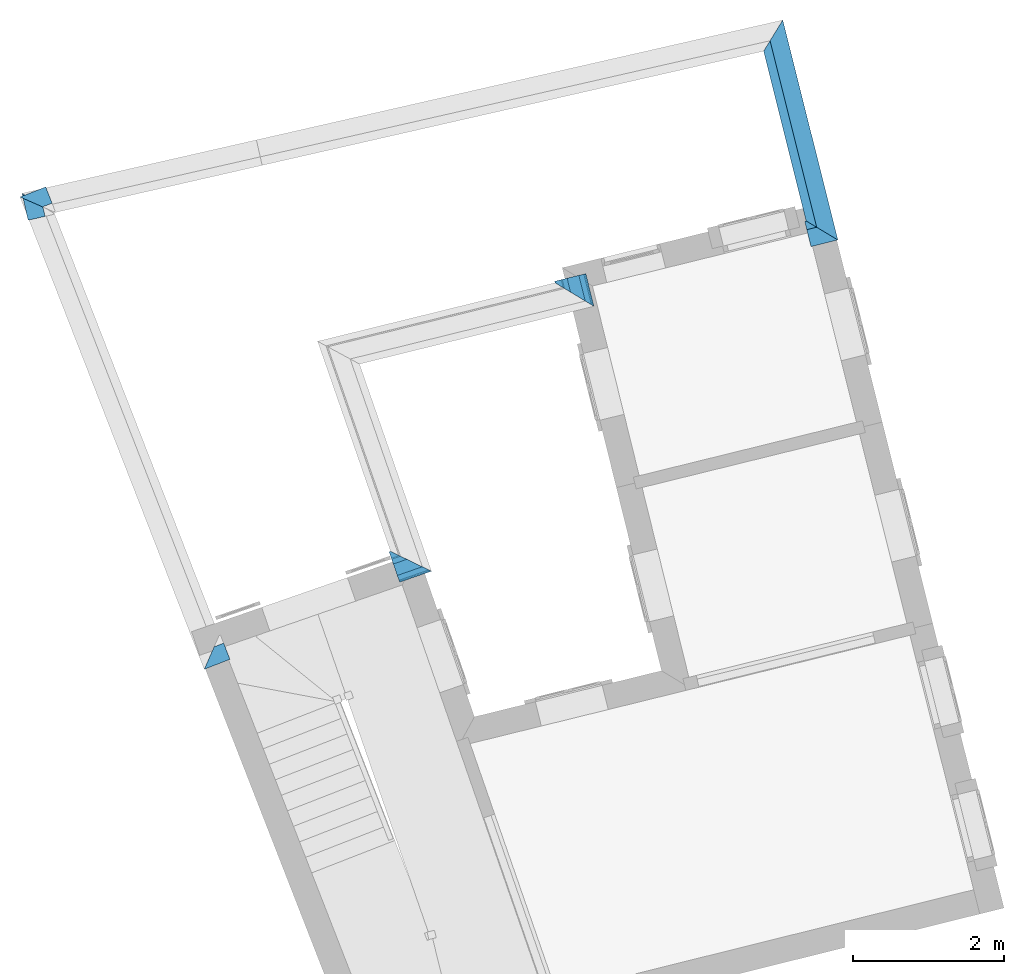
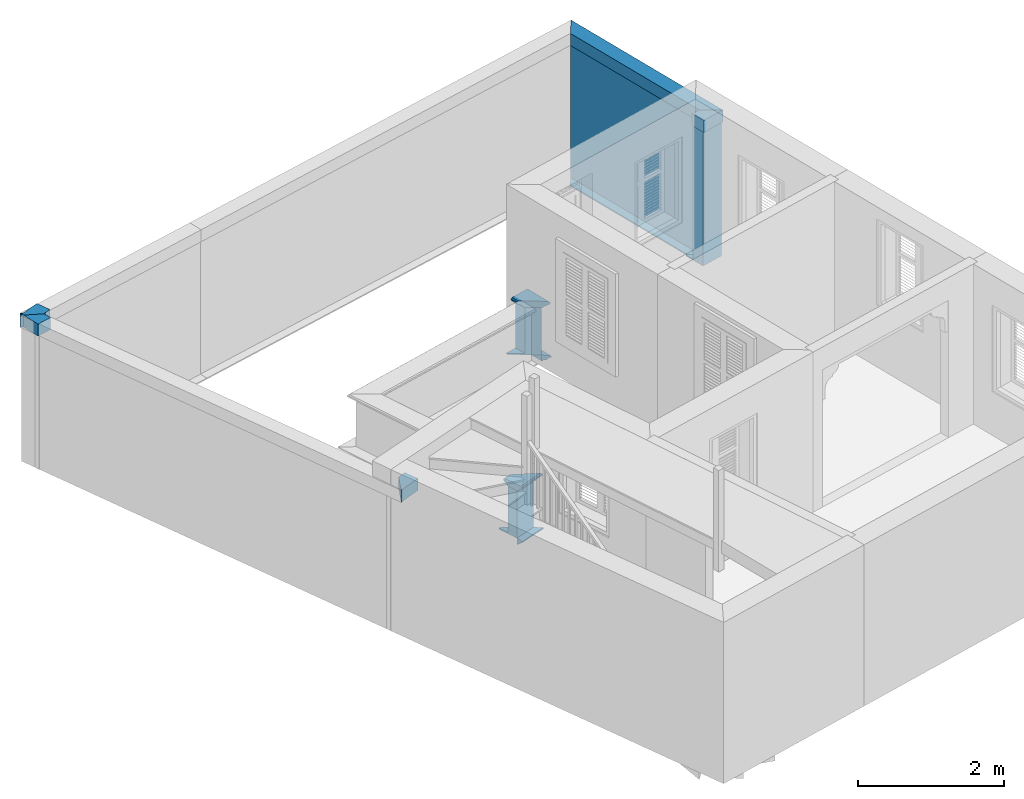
# One storey, part 8 of 8: 13 walls.
"""IFC4 building model written with IfcOpenShell, lengths in metres."""

from ifc_helpers import new_model, si_unit, frame, origin_with_axes, place, context, subcontext, project, spatial, polyline, outline, extrude, clip, halfspace, material_profile, profile_set, profile_usage, type_object, element, save


model = new_model("IFC4")

# Units and contexts
model_context = context("Model", 3, world=origin_with_axes())
body_context = subcontext(model_context, "Body", "Model", "MODEL_VIEW")
ifc_project = project(units=[si_unit("PLANEANGLEUNIT", "RADIAN"), si_unit("MASSUNIT", "GRAM", prefix="KILO"), si_unit("FORCEUNIT", "NEWTON", prefix="KILO"), si_unit("LENGTHUNIT", "METRE"), si_unit("AREAUNIT", "SQUARE_METRE"), si_unit("VOLUMEUNIT", "CUBIC_METRE")], contexts=[model_context, model_context])

# Site, building, storey
site_placement = place(None, origin_with_axes())
site = spatial("IfcSite", under=ifc_project, at=site_placement, Name="Site plot-1", CompositionType="ELEMENT")
building_placement = place(None, origin_with_axes())
building = spatial("IfcBuilding", under=site, at=building_placement, Name="Building plot-1", CompositionType="ELEMENT")
storey_placement = place(None, frame((0.0, 0.0, 2.7), z_axis=(0.0, 0.0, 1.0), x_axis=(1.0, 0.0, 0.0)))
storey = spatial("IfcBuildingStorey", under=building, at=storey_placement, Name="plot-1 1", CompositionType="ELEMENT", Elevation=2.7)

# Walls
ifc_material_profile_1 = material_profile(None, outline(polyline([(0.25, 0.0), (0.25, 2.245), (0.05, 2.245), (0.05, 0.02), (-0.08, 0.02), (-0.08, 0.0), (0.25, 0.0)])))
ifc_profile_set_1 = profile_set([ifc_material_profile_1])
ifc_profile_usage_1 = profile_usage(ifc_profile_set_1)
wall_type_1 = type_object("IfcWallType", Name="parapet street_0", PredefinedType="PARAPET", material=ifc_profile_set_1)
wall_1_placement = place(storey_placement, frame((5.82904851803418, 24.8814401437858, 0.0), z_axis=(-0.970033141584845, -0.242972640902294, 0.0), x_axis=(0.242972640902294, -0.970033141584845, 0.0)))
element("IfcWall", 1, at=wall_1_placement, inside=storey, type_object=wall_type_1, material=ifc_profile_usage_1, Name="parapet street_0", context=body_context, shape_type="Clipping", body=[
    clip(clip(extrude(outline(polyline([(0.25, 0.0), (0.25, 2.245), (0.05, 2.245), (0.05, 0.02), (-0.08, 0.02), (-0.08, 0.0), (0.25, 0.0)])), origin_with_axes(), (0.0, 0.0, 1.0), 2.1), halfspace(frame((0.0, 0.0, 1.1), z_axis=(-6.12323399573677e-17, 0.0, -1.0), x_axis=(0.0, 1.0, 0.0)), True)), halfspace(frame((0.0, 0.0, 1.0), z_axis=(-0.707106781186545, 0.0, -0.70710678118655), x_axis=(0.0, 1.0, 0.0)), False)),
])
ifc_profile_usage_2 = profile_usage(ifc_profile_set_1)
wall_2_placement = place(storey_placement, frame((4.01587312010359, 28.0045910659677, 0.0), z_axis=(0.242972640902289, -0.970033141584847, 0.0), x_axis=(0.970033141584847, 0.242972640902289, 0.0)))
element("IfcWall", 2, at=wall_2_placement, inside=storey, type_object=wall_type_1, material=ifc_profile_usage_2, Name="parapet street_0", context=body_context, shape_type="Clipping", body=[
    clip(clip(extrude(outline(polyline([(0.25, 0.0), (0.25, 2.245), (0.05, 2.245), (0.05, 0.02), (-0.08, 0.02), (-0.08, 0.0), (0.25, 0.0)])), origin_with_axes(), (0.0, 0.0, 1.0), 4.47011191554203), halfspace(frame((0.0, 0.0, 3.47011191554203), z_axis=(0.707106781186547, 0.0, -0.707106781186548), x_axis=(0.0, 1.0, 0.0)), True)), halfspace(frame((0.0, 0.0, 1.0), z_axis=(-0.699473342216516, 0.0, -0.714658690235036), x_axis=(0.0, 1.0, 0.0)), False)),
])
ifc_material_profile_2 = material_profile(None, outline(polyline([(0.265, 2.245), (0.265, 2.445), (0.035, 2.445), (0.035, 2.245), (0.265, 2.245)])))
ifc_profile_set_2 = profile_set([ifc_material_profile_2])
ifc_profile_usage_3 = profile_usage(ifc_profile_set_2)
wall_type_2 = type_object("IfcWallType", Name="parapet street_1", PredefinedType="PARAPET", material=ifc_profile_set_2)
wall_3_placement = place(storey_placement, frame((5.82904851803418, 24.8814401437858, 0.0), z_axis=(-0.970033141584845, -0.242972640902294, 0.0), x_axis=(0.242972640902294, -0.970033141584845, 0.0)))
element("IfcWall", 3, at=wall_3_placement, inside=storey, type_object=wall_type_2, material=ifc_profile_usage_3, Name="parapet street_1", context=body_context, shape_type="Clipping", body=[
    clip(clip(extrude(outline(polyline([(0.265, 2.245), (0.265, 2.445), (0.035, 2.445), (0.035, 2.245), (0.265, 2.245)])), origin_with_axes(), (0.0, 0.0, 1.0), 2.1), halfspace(frame((0.0, 0.0, 1.1), z_axis=(-6.12323399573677e-17, 0.0, -1.0), x_axis=(0.0, 1.0, 0.0)), True)), halfspace(frame((0.0, 0.0, 1.0), z_axis=(-0.707106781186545, 0.0, -0.70710678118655), x_axis=(0.0, 1.0, 0.0)), False)),
])
ifc_profile_usage_4 = profile_usage(ifc_profile_set_2)
wall_4_placement = place(storey_placement, frame((4.01587312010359, 28.0045910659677, 0.0), z_axis=(0.242972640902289, -0.970033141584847, 0.0), x_axis=(0.970033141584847, 0.242972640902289, 0.0)))
element("IfcWall", 4, at=wall_4_placement, inside=storey, type_object=wall_type_2, material=ifc_profile_usage_4, Name="parapet street_1", context=body_context, shape_type="Clipping", body=[
    clip(clip(extrude(outline(polyline([(0.265, 2.245), (0.265, 2.445), (0.035, 2.445), (0.035, 2.245), (0.265, 2.245)])), origin_with_axes(), (0.0, 0.0, 1.0), 4.47011191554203), halfspace(frame((0.0, 0.0, 3.47011191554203), z_axis=(0.707106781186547, 0.0, -0.707106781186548), x_axis=(0.0, 1.0, 0.0)), True)), halfspace(frame((0.0, 0.0, 1.0), z_axis=(-0.699473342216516, 0.0, -0.714658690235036), x_axis=(0.0, 1.0, 0.0)), False)),
])
ifc_profile_usage_5 = profile_usage(ifc_profile_set_2)
wall_5_placement = place(storey_placement, frame((-5.03459995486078, 23.789576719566, 0.0), z_axis=(-0.222086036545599, 0.975027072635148, 0.0), x_axis=(-0.975027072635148, -0.222086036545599, 0.0)))
element("IfcWall", 5, at=wall_5_placement, inside=storey, type_object=wall_type_2, material=ifc_profile_usage_5, Name="parapet street_1", context=body_context, shape_type="Clipping", body=[
    clip(clip(extrude(outline(polyline([(0.265, 2.245), (0.265, 2.445), (0.035, 2.445), (0.035, 2.245), (0.265, 2.245)])), origin_with_axes(), (0.0, 0.0, 1.0), 2.1), halfspace(frame((0.0, 0.0, 1.1), z_axis=(0.707106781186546, 0.0, -0.707106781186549), x_axis=(0.0, 1.0, 0.0)), True)), halfspace(frame((0.0, 0.0, 1.0), z_axis=(1.04899068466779e-15, 0.0, -1.0), x_axis=(0.0, 1.0, 0.0)), False)),
])
ifc_material_profile_3 = material_profile(None, outline(polyline([(0.265, 2.245), (0.265, 2.445), (0.035, 2.445), (0.035, 2.245), (0.265, 2.245)])))
ifc_profile_set_3 = profile_set([ifc_material_profile_3])
ifc_profile_usage_6 = profile_usage(ifc_profile_set_3)
wall_type_3 = type_object("IfcWallType", Name="parapet party_1", PredefinedType="PARAPET", material=ifc_profile_set_3)
wall_6_placement = place(storey_placement, frame((-6.21055159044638, 24.4987674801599, 0.0), z_axis=(0.931656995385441, 0.363339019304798, 0.0), x_axis=(-0.363339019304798, 0.931656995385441, 0.0)))
element("IfcWall", 6, at=wall_6_placement, inside=storey, type_object=wall_type_3, material=ifc_profile_usage_6, Name="parapet party_1", context=body_context, shape_type="Clipping", body=[
    clip(clip(extrude(outline(polyline([(0.265, 2.245), (0.265, 2.445), (0.035, 2.445), (0.035, 2.245), (0.265, 2.245)])), origin_with_axes(), (0.0, 0.0, 1.0), 2.1), halfspace(frame((0.0, 0.0, 1.1), z_axis=(3.82856869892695e-16, 0.0, -1.0), x_axis=(0.0, 1.0, 0.0)), True)), halfspace(frame((0.0, 0.0, 1.0), z_axis=(-0.707106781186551, 0.0, -0.707106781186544), x_axis=(0.0, 1.0, 0.0)), False)),
])
ifc_profile_usage_7 = profile_usage(ifc_profile_set_3)
wall_7_placement = place(storey_placement, frame((-2.01342095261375, 19.5164065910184, 0.0), z_axis=(-0.931656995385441, -0.363339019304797, 0.0), x_axis=(0.363339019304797, -0.931656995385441, 0.0)))
element("IfcWall", 7, at=wall_7_placement, inside=storey, type_object=wall_type_3, material=ifc_profile_usage_7, Name="parapet party_1", context=body_context, shape_type="Clipping", body=[
    clip(clip(extrude(outline(polyline([(0.265, 2.245), (0.265, 2.445), (0.035, 2.445), (0.035, 2.245), (0.265, 2.245)])), origin_with_axes(), (0.0, 0.0, 1.0), 2.1), halfspace(frame((0.0, 0.0, 1.1), z_axis=(0.707106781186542, 0.0, -0.707106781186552), x_axis=(0.0, 1.0, 0.0)), True)), halfspace(frame((0.0, 0.0, 1.0), z_axis=(-6.12323399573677e-17, 0.0, -1.0), x_axis=(0.0, 1.0, 0.0)), False)),
])
ifc_material_profile_4 = material_profile(None, outline(polyline([(0.25, 0.0), (0.25, 0.795), (0.09, 0.795), (0.09, 0.02), (-0.08, 0.02), (-0.08, 0.0), (0.25, 0.0)])))
ifc_profile_set_4 = profile_set([ifc_material_profile_4])
ifc_profile_usage_8 = profile_usage(ifc_profile_set_4)
wall_type_4 = type_object("IfcWallType", Name="parapet internal_0", PredefinedType="PARAPET", material=ifc_profile_set_4)
wall_8_placement = place(storey_placement, frame((0.318572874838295, 20.6107552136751, 0.0), z_axis=(-0.944647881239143, -0.328085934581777, 0.0), x_axis=(0.328085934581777, -0.944647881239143, 0.0)))
element("IfcWall", 8, at=wall_8_placement, inside=storey, type_object=wall_type_4, material=ifc_profile_usage_8, Name="parapet internal_0", context=body_context, shape_type="Clipping", body=[
    clip(clip(extrude(outline(polyline([(0.25, 0.0), (0.25, 0.795), (0.09, 0.795), (0.09, 0.02), (-0.08, 0.02), (-0.08, 0.0), (0.25, 0.0)])), origin_with_axes(), (0.0, 0.0, 1.0), 2.1), halfspace(frame((0.0, 0.0, 1.1), z_axis=(-5.0532154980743e-16, 0.0, -1.0), x_axis=(0.0, 1.0, 0.0)), True)), halfspace(frame((0.0, 0.0, 1.0), z_axis=(-0.707106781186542, 0.0, -0.707106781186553), x_axis=(0.0, 1.0, 0.0)), False)),
])
ifc_profile_usage_9 = profile_usage(ifc_profile_set_4)
wall_9_placement = place(storey_placement, frame((1.2781690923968, 24.8890832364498, 0.0), z_axis=(0.239234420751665, -0.970961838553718, 0.0), x_axis=(0.970961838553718, 0.239234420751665, 0.0)))
element("IfcWall", 9, at=wall_9_placement, inside=storey, type_object=wall_type_4, material=ifc_profile_usage_9, Name="parapet internal_0", context=body_context, shape_type="Clipping", body=[
    clip(clip(extrude(outline(polyline([(0.25, 0.0), (0.25, 0.795), (0.09, 0.795), (0.09, 0.02), (-0.08, 0.02), (-0.08, 0.0), (0.25, 0.0)])), origin_with_axes(), (0.0, 0.0, 1.0), 2.1), halfspace(frame((0.0, 0.0, 1.1), z_axis=(0.707106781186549, 0.0, -0.707106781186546), x_axis=(0.0, 1.0, 0.0)), True)), halfspace(frame((0.0, 0.0, 1.0), z_axis=(6.04901474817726e-16, 0.0, -1.0), x_axis=(0.0, 1.0, 0.0)), False)),
])
ifc_material_profile_5 = material_profile(None, outline(polyline([(0.265, 0.795), (0.268, 0.807), (0.274, 0.816), (0.283, 0.822), (0.295, 0.825), (0.295, 0.84), (0.305, 0.84), (0.317, 0.842), (0.326, 0.849), (0.333, 0.858), (0.335, 0.87), (0.333, 0.882), (0.326, 0.891), (0.317, 0.898), (0.305, 0.9), (0.035, 0.9), (0.023, 0.898), (0.014, 0.891), (0.007, 0.882), (0.005, 0.87), (0.007, 0.858), (0.014, 0.849), (0.023, 0.842), (0.035, 0.84), (0.045, 0.84), (0.045, 0.825), (0.057, 0.822), (0.066, 0.816), (0.072, 0.807), (0.075, 0.795), (0.265, 0.795)])))
ifc_profile_set_5 = profile_set([ifc_material_profile_5])
ifc_profile_usage_10 = profile_usage(ifc_profile_set_5)
wall_type_5 = type_object("IfcWallType", Name="parapet internal_1", PredefinedType="PARAPET", material=ifc_profile_set_5)
wall_10_placement = place(storey_placement, frame((0.318572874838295, 20.6107552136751, 0.0), z_axis=(-0.944647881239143, -0.328085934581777, 0.0), x_axis=(0.328085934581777, -0.944647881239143, 0.0)))
element("IfcWall", 10, at=wall_10_placement, inside=storey, type_object=wall_type_5, material=ifc_profile_usage_10, Name="parapet internal_1", context=body_context, shape_type="Clipping", body=[
    clip(clip(extrude(outline(polyline([(0.265, 0.795), (0.268, 0.807), (0.274, 0.816), (0.283, 0.822), (0.295, 0.825), (0.295, 0.84), (0.305, 0.84), (0.317, 0.842), (0.326, 0.849), (0.333, 0.858), (0.335, 0.87), (0.333, 0.882), (0.326, 0.891), (0.317, 0.898), (0.305, 0.9), (0.035, 0.9), (0.023, 0.898), (0.014, 0.891), (0.007, 0.882), (0.005, 0.87), (0.007, 0.858), (0.014, 0.849), (0.023, 0.842), (0.035, 0.84), (0.045, 0.84), (0.045, 0.825), (0.057, 0.822), (0.066, 0.816), (0.072, 0.807), (0.075, 0.795), (0.265, 0.795)])), origin_with_axes(), (0.0, 0.0, 1.0), 2.1), halfspace(frame((0.0, 0.0, 1.1), z_axis=(-5.0532154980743e-16, 0.0, -1.0), x_axis=(0.0, 1.0, 0.0)), True)), halfspace(frame((0.0, 0.0, 1.0), z_axis=(-0.707106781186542, 0.0, -0.707106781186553), x_axis=(0.0, 1.0, 0.0)), False)),
])
ifc_profile_usage_11 = profile_usage(ifc_profile_set_5)
wall_11_placement = place(storey_placement, frame((1.2781690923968, 24.8890832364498, 0.0), z_axis=(0.239234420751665, -0.970961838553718, 0.0), x_axis=(0.970961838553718, 0.239234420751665, 0.0)))
element("IfcWall", 11, at=wall_11_placement, inside=storey, type_object=wall_type_5, material=ifc_profile_usage_11, Name="parapet internal_1", context=body_context, shape_type="Clipping", body=[
    clip(clip(extrude(outline(polyline([(0.265, 0.795), (0.268, 0.807), (0.274, 0.816), (0.283, 0.822), (0.295, 0.825), (0.295, 0.84), (0.305, 0.84), (0.317, 0.842), (0.326, 0.849), (0.333, 0.858), (0.335, 0.87), (0.333, 0.882), (0.326, 0.891), (0.317, 0.898), (0.305, 0.9), (0.035, 0.9), (0.023, 0.898), (0.014, 0.891), (0.007, 0.882), (0.005, 0.87), (0.007, 0.858), (0.014, 0.849), (0.023, 0.842), (0.035, 0.84), (0.045, 0.84), (0.045, 0.825), (0.057, 0.822), (0.066, 0.816), (0.072, 0.807), (0.075, 0.795), (0.265, 0.795)])), origin_with_axes(), (0.0, 0.0, 1.0), 2.1), halfspace(frame((0.0, 0.0, 1.1), z_axis=(0.707106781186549, 0.0, -0.707106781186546), x_axis=(0.0, 1.0, 0.0)), True)), halfspace(frame((0.0, 0.0, 1.0), z_axis=(6.04901474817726e-16, 0.0, -1.0), x_axis=(0.0, 1.0, 0.0)), False)),
])
ifc_material_profile_6 = material_profile(None, outline(polyline([(0.25, -0.1), (0.265, -0.1), (0.265, -0.085), (0.278, -0.084), (0.289, -0.081), (0.301, -0.074), (0.309, -0.065), (0.315, -0.055), (0.324, -0.044), (0.334, -0.038), (0.345, -0.035), (0.345, -0.015), (0.25, 0.0), (0.25, -0.1)])))
ifc_profile_set_6 = profile_set([ifc_material_profile_6])
ifc_profile_usage_12 = profile_usage(ifc_profile_set_6)
wall_type_6 = type_object("IfcWallType", Name="parapet internal_2", PredefinedType="PARAPET", material=ifc_profile_set_6)
wall_12_placement = place(storey_placement, frame((0.318572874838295, 20.6107552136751, 0.0), z_axis=(-0.944647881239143, -0.328085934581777, 0.0), x_axis=(0.328085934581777, -0.944647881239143, 0.0)))
element("IfcWall", 12, at=wall_12_placement, inside=storey, type_object=wall_type_6, material=ifc_profile_usage_12, Name="parapet internal_2", context=body_context, shape_type="Clipping", body=[
    clip(clip(extrude(outline(polyline([(0.25, -0.1), (0.265, -0.1), (0.265, -0.085), (0.278, -0.084), (0.289, -0.081), (0.301, -0.074), (0.309, -0.065), (0.315, -0.055), (0.324, -0.044), (0.334, -0.038), (0.345, -0.035), (0.345, -0.015), (0.25, 0.0), (0.25, -0.1)])), origin_with_axes(), (0.0, 0.0, 1.0), 2.1), halfspace(frame((0.0, 0.0, 1.1), z_axis=(-5.0532154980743e-16, 0.0, -1.0), x_axis=(0.0, 1.0, 0.0)), True)), halfspace(frame((0.0, 0.0, 1.0), z_axis=(-0.707106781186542, 0.0, -0.707106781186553), x_axis=(0.0, 1.0, 0.0)), False)),
])
ifc_profile_usage_13 = profile_usage(ifc_profile_set_6)
wall_13_placement = place(storey_placement, frame((1.2781690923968, 24.8890832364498, 0.0), z_axis=(0.239234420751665, -0.970961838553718, 0.0), x_axis=(0.970961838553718, 0.239234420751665, 0.0)))
element("IfcWall", 13, at=wall_13_placement, inside=storey, type_object=wall_type_6, material=ifc_profile_usage_13, Name="parapet internal_2", context=body_context, shape_type="Clipping", body=[
    clip(clip(extrude(outline(polyline([(0.25, -0.1), (0.265, -0.1), (0.265, -0.085), (0.278, -0.084), (0.289, -0.081), (0.301, -0.074), (0.309, -0.065), (0.315, -0.055), (0.324, -0.044), (0.334, -0.038), (0.345, -0.035), (0.345, -0.015), (0.25, 0.0), (0.25, -0.1)])), origin_with_axes(), (0.0, 0.0, 1.0), 2.1), halfspace(frame((0.0, 0.0, 1.1), z_axis=(0.707106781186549, 0.0, -0.707106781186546), x_axis=(0.0, 1.0, 0.0)), True)), halfspace(frame((0.0, 0.0, 1.0), z_axis=(6.04901474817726e-16, 0.0, -1.0), x_axis=(0.0, 1.0, 0.0)), False)),
])

save(model, "model.ifc")
